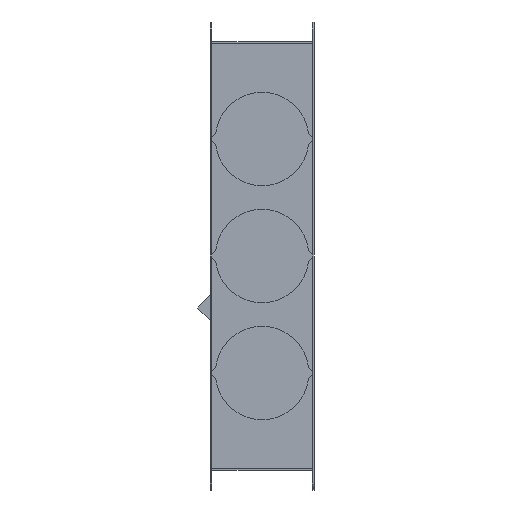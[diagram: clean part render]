
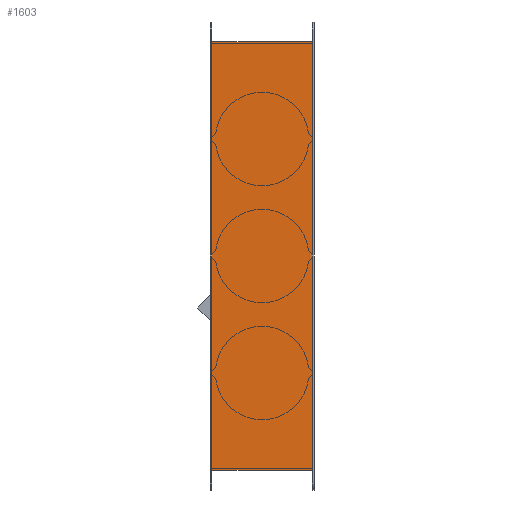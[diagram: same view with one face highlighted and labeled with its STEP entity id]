
A CAD part, left-side view. The second image highlights one B-rep face of the part: STEP entity #1603.
In plain terms, the highlighted planar face has unit normal (-1, 0, 0).
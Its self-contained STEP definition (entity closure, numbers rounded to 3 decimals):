
#131=LINE('',#2647,#287);
#145=LINE('',#2686,#301);
#161=LINE('',#2729,#317);
#162=LINE('',#2730,#318);
#287=VECTOR('',#2101,10.);
#301=VECTOR('',#2133,10.);
#317=VECTOR('',#2183,10.);
#318=VECTOR('',#2184,10.);
#374=PLANE('',#1755);
#524=FACE_OUTER_BOUND('',#634,.T.);
#634=EDGE_LOOP('',(#1444,#1445,#1446,#1447));
#838=VERTEX_POINT('',#2644);
#839=VERTEX_POINT('',#2646);
#854=VERTEX_POINT('',#2683);
#855=VERTEX_POINT('',#2685);
#1034=EDGE_CURVE('',#839,#838,#131,.T.);
#1053=EDGE_CURVE('',#855,#854,#145,.T.);
#1075=EDGE_CURVE('',#855,#838,#161,.F.);
#1076=EDGE_CURVE('',#854,#839,#162,.T.);
#1444=ORIENTED_EDGE('',*,*,#1034,.T.);
#1445=ORIENTED_EDGE('',*,*,#1075,.F.);
#1446=ORIENTED_EDGE('',*,*,#1053,.T.);
#1447=ORIENTED_EDGE('',*,*,#1076,.T.);
#1603=ADVANCED_FACE('',(#524),#374,.T.);
#1755=AXIS2_PLACEMENT_3D('',#2728,#2181,#2182);
#2101=DIRECTION('',(0.,0.,-1.));
#2133=DIRECTION('',(0.,0.,1.));
#2181=DIRECTION('center_axis',(-1.,0.,0.));
#2182=DIRECTION('ref_axis',(0.,0.,1.));
#2183=DIRECTION('',(0.,-1.,0.));
#2184=DIRECTION('',(0.,1.,0.));
#2644=CARTESIAN_POINT('',(-397.,58.,-247.));
#2646=CARTESIAN_POINT('',(-397.,58.,247.));
#2647=CARTESIAN_POINT('',(-397.,58.,-122.5));
#2683=CARTESIAN_POINT('',(-397.,-58.,247.));
#2685=CARTESIAN_POINT('',(-397.,-58.,-247.));
#2686=CARTESIAN_POINT('',(-397.,-58.,-122.5));
#2728=CARTESIAN_POINT('Origin',(-397.,-60.,-245.));
#2729=CARTESIAN_POINT('',(-397.,-60.,-247.));
#2730=CARTESIAN_POINT('',(-397.,-60.,247.));
